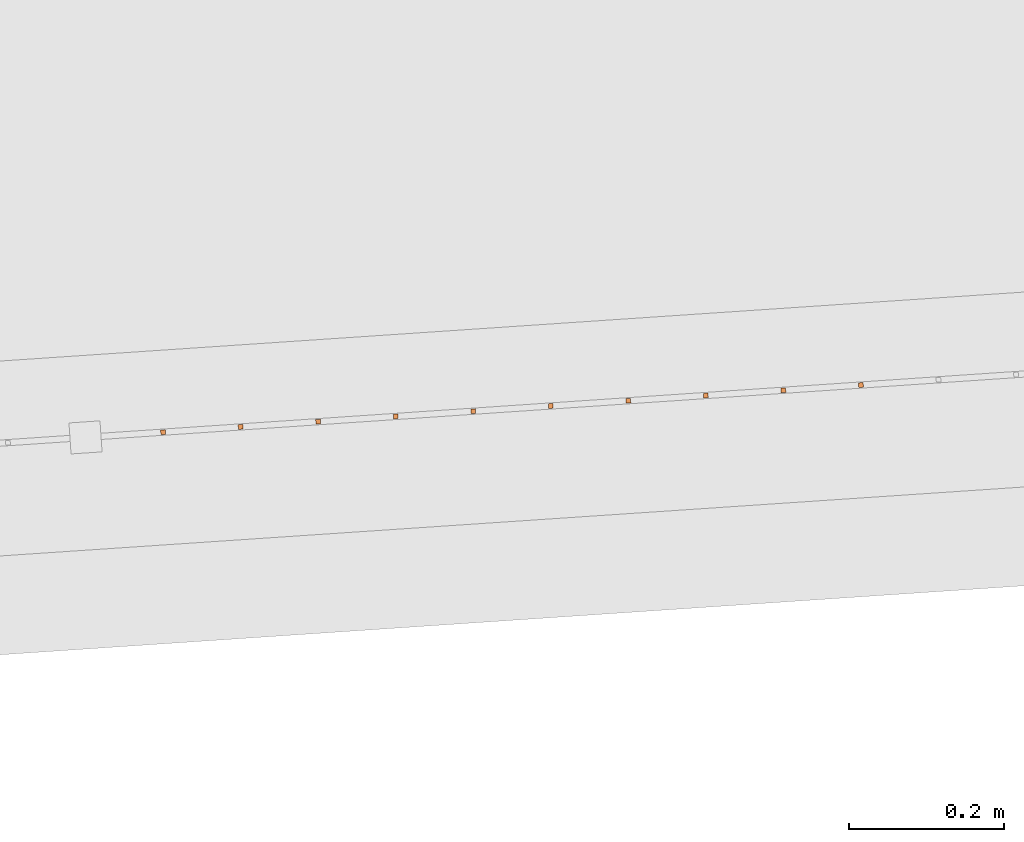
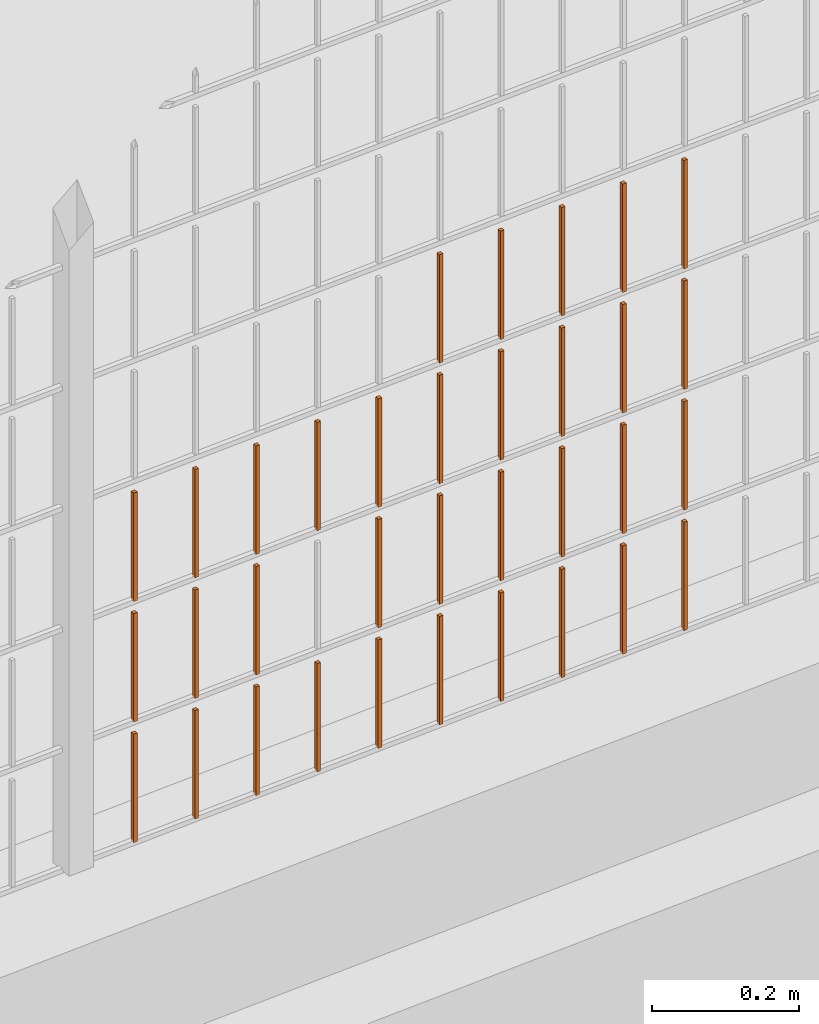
# One storey, part 337 of 1809: 34 proxies, 1 element without a shape of its own.
"""IFC2X3 building model written with IfcOpenShell, lengths in millimetres."""

from ifc_helpers import new_model, entity, si_unit, converted_unit, derived_unit, money_unit, direction, frame, origin_with_axes, place, context, subcontext, project, spatial, faceted_brep, source, transform, mapped, material, type_object, element, aggregate, save


model = new_model("IFC2X3")

# Units and contexts
model_context = context("Model", 3, precision=0.01, world=origin_with_axes(), true_north=direction((0.0, 1.0)))
body_context = subcontext(model_context, "Body", "Model", "MODEL_VIEW")
ifc_project = project(units=[si_unit("LENGTHUNIT", "METRE", prefix="MILLI"), si_unit("AREAUNIT", "SQUARE_METRE"), si_unit("VOLUMEUNIT", "CUBIC_METRE"), converted_unit("PLANEANGLEUNIT", "DEGREE", entity("IfcPlaneAngleMeasure", 0.0174532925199), si_unit("PLANEANGLEUNIT", "RADIAN"), dimensions=[0, 0, 0, 0, 0, 0, 0]), si_unit("SOLIDANGLEUNIT", "STERADIAN"), money_unit("EUR"), converted_unit("TIMEUNIT", "Year", entity("IfcTimeMeasure", 31556926.0), si_unit("TIMEUNIT", "SECOND"), dimensions=[0, 0, 1, 0, 0, 0, 0]), si_unit("MASSUNIT", "GRAM", prefix="KILO"), si_unit("THERMODYNAMICTEMPERATUREUNIT", "DEGREE_CELSIUS"), si_unit("LUMINOUSINTENSITYUNIT", "LUMEN"), si_unit("ENERGYUNIT", "JOULE", prefix="MEGA"), derived_unit("THERMALCONDUCTANCEUNIT", [(si_unit("POWERUNIT", "WATT"), 1), (si_unit("LENGTHUNIT", "METRE"), -1), (si_unit("THERMODYNAMICTEMPERATUREUNIT", "KELVIN"), -1)]), derived_unit("SPECIFICHEATCAPACITYUNIT", [(si_unit("ENERGYUNIT", "JOULE"), 1), (si_unit("MASSUNIT", "GRAM", prefix="KILO"), -1), (si_unit("THERMODYNAMICTEMPERATUREUNIT", "KELVIN"), -1)]), derived_unit("MASSDENSITYUNIT", [(si_unit("MASSUNIT", "GRAM", prefix="KILO"), 1), (si_unit("VOLUMEUNIT", "CUBIC_METRE"), -1)])], contexts=[model_context])

# Site, building, storey
site_placement = place(None, origin_with_axes())
site = spatial("IfcSite", under=ifc_project, at=site_placement, Name="Politse- ja Piirivalveameti ning Päästeameti ühishoone", CompositionType="ELEMENT")
building_placement = place(site_placement, origin_with_axes())
building = spatial("IfcBuilding", under=site, at=building_placement, Name="Politse- ja Piirivalveameti ning Päästeameti ühishoone", CompositionType="ELEMENT")
storey_placement = place(building_placement, origin_with_axes())
storey = spatial("IfcBuildingStorey", under=building, at=storey_placement, Name="Esimene korrus", CompositionType="ELEMENT", Elevation=0.0)

# Proxies
building_element_proxy_type_1 = type_object("IfcBuildingElementProxyType", Name="Railing Type", PredefinedType="NOTDEFINED")
proxy_1_placement = place(storey_placement, frame((89252.001212, -29183.4766571, 203.661247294), z_axis=(0.0, 0.0, 1.0), x_axis=(1.0, 0.0, 0.0)))
proxy_1 = element("IfcBuildingElementProxy", 1, at=proxy_1_placement, inside=storey, type_object=building_element_proxy_type_1, Name="PIIRDEAED")
ifc_material = material(Name="ET-03_Raud")
building_element_proxy_type_2 = type_object("IfcBuildingElementProxyType", Name="IfcBuildingElementProxy", PredefinedType="NOTDEFINED")
shared_shape_1 = source(origin_with_axes(), body_context, "Body", "Brep", [
    faceted_brep([(3.0, 3.0, -0.000752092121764), (-3.0, 3.0, -0.000752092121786), (-3.0, 3.0, 179.99926046), (3.0, 3.0, 179.99926046), (3.0, -3.0, 0.000752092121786), (-3.0, -3.0, 0.000752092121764), (-3.0, -3.0, 180.000764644), (3.0, -3.0, 180.000764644)], [[[0, 1, 2, 3]], [[0, 4, 5, 1]], [[1, 5, 6, 2]], [[3, 2, 6, 7]], [[4, 0, 3, 7]], [[5, 4, 7, 6]]]),
])
proxy_2_placement = place(proxy_1_placement, frame((-31255.4676915, -19408.9636503, 19.3808671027), z_axis=(0.0, 0.0, 1.0), x_axis=(1.0, 0.0, 0.0)))
proxy_2 = element("IfcBuildingElementProxy", 2, at=proxy_2_placement, type_object=building_element_proxy_type_2, material=ifc_material, Name="BALUSTER - 001", context=body_context, shape_type="MappedRepresentation", body=[
    mapped(shared_shape_1, transform((0.0, 0.0, 0.0), x_axis=(-0.0673926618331, 0.997726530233, 0.0), y_axis=(-0.997726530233, -0.0673926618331, 0.0), z_axis=(0.0, 0.0, 1.0))),
])
shared_shape_2 = source(origin_with_axes(), body_context, "Body", "Brep", [
    faceted_brep([(3.0, 3.0, -0.000752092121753), (-3.0, 3.0, -0.000752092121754), (-3.0, 3.0, 179.99926046), (3.0, 3.0, 179.99926046), (3.0, -3.0, 0.000752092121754), (-3.0, -3.0, 0.000752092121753), (-3.0, -3.0, 180.000764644), (3.0, -3.0, 180.000764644)], [[[0, 1, 2, 3]], [[0, 4, 5, 1]], [[1, 5, 6, 2]], [[3, 2, 6, 7]], [[4, 0, 3, 7]], [[5, 4, 7, 6]]]),
])
proxy_3_placement = place(proxy_1_placement, frame((-31654.5583036, -19435.920715, 419.280588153), z_axis=(0.0, 0.0, 1.0), x_axis=(1.0, 0.0, 0.0)))
proxy_3 = element("IfcBuildingElementProxy", 3, at=proxy_3_placement, type_object=building_element_proxy_type_2, material=ifc_material, Name="BALUSTER - 001", context=body_context, shape_type="MappedRepresentation", body=[
    mapped(shared_shape_2, transform((0.0, 0.0, 0.0), x_axis=(-0.0673926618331, 0.997726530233, 0.0), y_axis=(-0.997726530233, -0.0673926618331, 0.0), z_axis=(0.0, 0.0, 1.0))),
])
shared_shape_3 = source(origin_with_axes(), body_context, "Body", "Brep", [
    faceted_brep([(3.0, 3.0, -0.000752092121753), (-3.0, 3.0, -0.000752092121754), (-3.0, 3.0, 179.99926046), (3.0, 3.0, 179.99926046), (3.0, -3.0, 0.000752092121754), (-3.0, -3.0, 0.000752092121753), (-3.0, -3.0, 180.000764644), (3.0, -3.0, 180.000764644)], [[[0, 1, 2, 3]], [[0, 4, 5, 1]], [[1, 5, 6, 2]], [[3, 2, 6, 7]], [[4, 0, 3, 7]], [[5, 4, 7, 6]]]),
])
proxy_4_placement = place(proxy_1_placement, frame((-31554.7856505, -19429.1814488, 219.30565789), z_axis=(0.0, 0.0, 1.0), x_axis=(1.0, 0.0, 0.0)))
proxy_4 = element("IfcBuildingElementProxy", 4, at=proxy_4_placement, type_object=building_element_proxy_type_2, material=ifc_material, Name="BALUSTER - 001", context=body_context, shape_type="MappedRepresentation", body=[
    mapped(shared_shape_3, transform((0.0, 0.0, 0.0), x_axis=(-0.0673926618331, 0.997726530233, 0.0), y_axis=(-0.997726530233, -0.0673926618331, 0.0), z_axis=(0.0, 0.0, 1.0))),
])
proxy_5_placement = place(proxy_1_placement, frame((-31554.7856505, -19429.1814488, 419.30565789), z_axis=(0.0, 0.0, 1.0), x_axis=(1.0, 0.0, 0.0)))
proxy_5 = element("IfcBuildingElementProxy", 5, at=proxy_5_placement, type_object=building_element_proxy_type_2, material=ifc_material, Name="BALUSTER - 001", context=body_context, shape_type="MappedRepresentation", body=[
    mapped(shared_shape_3, transform((0.0, 0.0, 0.0), x_axis=(-0.0673926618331, 0.997726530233, 0.0), y_axis=(-0.997726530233, -0.0673926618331, 0.0), z_axis=(0.0, 0.0, 1.0))),
])
shared_shape_4 = source(origin_with_axes(), body_context, "Body", "Brep", [
    faceted_brep([(3.0, 3.0, -0.000752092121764), (-3.0, 3.0, -0.000752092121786), (-3.0, 3.0, 179.99926046), (3.0, 3.0, 179.99926046), (3.0, -3.0, 0.000752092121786), (-3.0, -3.0, 0.000752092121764), (-3.0, -3.0, 180.000764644), (3.0, -3.0, 180.000764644)], [[[0, 1, 2, 3]], [[0, 4, 5, 1]], [[1, 5, 6, 2]], [[3, 2, 6, 7]], [[4, 0, 3, 7]], [[5, 4, 7, 6]]]),
])
proxy_6_placement = place(proxy_1_placement, frame((-31255.4676915, -19408.9636503, 219.380867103), z_axis=(0.0, 0.0, 1.0), x_axis=(1.0, 0.0, 0.0)))
proxy_6 = element("IfcBuildingElementProxy", 6, at=proxy_6_placement, type_object=building_element_proxy_type_2, material=ifc_material, Name="BALUSTER - 001", context=body_context, shape_type="MappedRepresentation", body=[
    mapped(shared_shape_4, transform((0.0, 0.0, 0.0), x_axis=(-0.0673926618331, 0.997726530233, 0.0), y_axis=(-0.997726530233, -0.0673926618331, 0.0), z_axis=(0.0, 0.0, 1.0))),
])
shared_shape_5 = source(origin_with_axes(), body_context, "Body", "Brep", [
    faceted_brep([(3.0, 3.0, -0.000752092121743), (-3.0, 3.0, -0.000752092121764), (-3.0, 3.0, 179.99926046), (3.0, 3.0, 179.99926046), (3.0, -3.0, 0.000752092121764), (-3.0, -3.0, 0.000752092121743), (-3.0, -3.0, 180.000764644), (3.0, -3.0, 180.000764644)], [[[0, 1, 2, 3]], [[0, 4, 5, 1]], [[1, 5, 6, 2]], [[3, 2, 6, 7]], [[4, 0, 3, 7]], [[5, 4, 7, 6]]]),
])
proxy_7_placement = place(proxy_1_placement, frame((-31754.3309566, -19442.6599812, 219.255518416), z_axis=(0.0, 0.0, 1.0), x_axis=(1.0, 0.0, 0.0)))
proxy_7 = element("IfcBuildingElementProxy", 7, at=proxy_7_placement, type_object=building_element_proxy_type_2, material=ifc_material, Name="BALUSTER - 001", context=body_context, shape_type="MappedRepresentation", body=[
    mapped(shared_shape_5, transform((0.0, 0.0, 0.0), x_axis=(-0.0673926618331, 0.997726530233, 0.0), y_axis=(-0.997726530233, -0.0673926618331, 0.0), z_axis=(0.0, 0.0, 1.0))),
])
proxy_8_placement = place(proxy_1_placement, frame((-31754.3309566, -19442.6599812, 419.255518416), z_axis=(0.0, 0.0, 1.0), x_axis=(1.0, 0.0, 0.0)))
proxy_8 = element("IfcBuildingElementProxy", 8, at=proxy_8_placement, type_object=building_element_proxy_type_2, material=ifc_material, Name="BALUSTER - 001", context=body_context, shape_type="MappedRepresentation", body=[
    mapped(shared_shape_5, transform((0.0, 0.0, 0.0), x_axis=(-0.0673926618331, 0.997726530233, 0.0), y_axis=(-0.997726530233, -0.0673926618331, 0.0), z_axis=(0.0, 0.0, 1.0))),
])
shared_shape_6 = source(origin_with_axes(), body_context, "Body", "Brep", [
    faceted_brep([(3.0, 3.0, -0.000752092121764), (-3.0, 3.0, -0.000752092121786), (-3.0, 3.0, 179.99926046), (3.0, 3.0, 179.99926046), (3.0, -3.0, 0.000752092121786), (-3.0, -3.0, 0.000752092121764), (-3.0, -3.0, 180.000764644), (3.0, -3.0, 180.000764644)], [[[0, 1, 2, 3]], [[0, 4, 5, 1]], [[1, 5, 6, 2]], [[3, 2, 6, 7]], [[4, 0, 3, 7]], [[5, 4, 7, 6]]]),
])
proxy_9_placement = place(proxy_1_placement, frame((-31255.4676915, -19408.9636503, 419.380867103), z_axis=(0.0, 0.0, 1.0), x_axis=(1.0, 0.0, 0.0)))
proxy_9 = element("IfcBuildingElementProxy", 9, at=proxy_9_placement, type_object=building_element_proxy_type_2, material=ifc_material, Name="BALUSTER - 001", context=body_context, shape_type="MappedRepresentation", body=[
    mapped(shared_shape_6, transform((0.0, 0.0, 0.0), x_axis=(-0.0673926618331, 0.997726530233, 0.0), y_axis=(-0.997726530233, -0.0673926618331, 0.0), z_axis=(0.0, 0.0, 1.0))),
])
shared_shape_7 = source(origin_with_axes(), body_context, "Body", "Brep", [
    faceted_brep([(3.0, 3.0, -0.000752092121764), (-3.0, 3.0, -0.000752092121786), (-3.0, 3.0, 179.99926046), (3.0, 3.0, 179.99926046), (3.0, -3.0, 0.000752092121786), (-3.0, -3.0, 0.000752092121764), (-3.0, -3.0, 180.000764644), (3.0, -3.0, 180.000764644)], [[[0, 1, 2, 3]], [[0, 4, 5, 1]], [[1, 5, 6, 2]], [[3, 2, 6, 7]], [[4, 0, 3, 7]], [[5, 4, 7, 6]]]),
])
proxy_10_placement = place(proxy_1_placement, frame((-31255.4676915, -19408.9636503, 619.380867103), z_axis=(0.0, 0.0, 1.0), x_axis=(1.0, 0.0, 0.0)))
proxy_10 = element("IfcBuildingElementProxy", 10, at=proxy_10_placement, type_object=building_element_proxy_type_2, material=ifc_material, Name="BALUSTER - 001", context=body_context, shape_type="MappedRepresentation", body=[
    mapped(shared_shape_7, transform((0.0, 0.0, 0.0), x_axis=(-0.0673926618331, 0.997726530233, 0.0), y_axis=(-0.997726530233, -0.0673926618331, 0.0), z_axis=(0.0, 0.0, 1.0))),
])
shared_shape_8 = source(origin_with_axes(), body_context, "Body", "Brep", [
    faceted_brep([(3.0, 3.0, -0.000752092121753), (-3.0, 3.0, -0.000752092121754), (-3.0, 3.0, 179.99926046), (3.0, 3.0, 179.99926046), (3.0, -3.0, 0.000752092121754), (-3.0, -3.0, 0.000752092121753), (-3.0, -3.0, 180.000764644), (3.0, -3.0, 180.000764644)], [[[0, 1, 2, 3]], [[0, 4, 5, 1]], [[1, 5, 6, 2]], [[3, 2, 6, 7]], [[4, 0, 3, 7]], [[5, 4, 7, 6]]]),
])
proxy_11_placement = place(proxy_1_placement, frame((-31554.7856505, -19429.1814488, 619.30565789), z_axis=(0.0, 0.0, 1.0), x_axis=(1.0, 0.0, 0.0)))
proxy_11 = element("IfcBuildingElementProxy", 11, at=proxy_11_placement, type_object=building_element_proxy_type_2, material=ifc_material, Name="BALUSTER - 001", context=body_context, shape_type="MappedRepresentation", body=[
    mapped(shared_shape_8, transform((0.0, 0.0, 0.0), x_axis=(-0.0673926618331, 0.997726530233, 0.0), y_axis=(-0.997726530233, -0.0673926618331, 0.0), z_axis=(0.0, 0.0, 1.0))),
])
shared_shape_9 = source(origin_with_axes(), body_context, "Body", "Brep", [
    faceted_brep([(3.0, 3.0, -0.000752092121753), (-3.0, 3.0, -0.000752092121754), (-3.0, 3.0, 179.99926046), (3.0, 3.0, 179.99926046), (3.0, -3.0, 0.000752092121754), (-3.0, -3.0, 0.000752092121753), (-3.0, -3.0, 180.000764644), (3.0, -3.0, 180.000764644)], [[[0, 1, 2, 3]], [[0, 4, 5, 1]], [[1, 5, 6, 2]], [[3, 2, 6, 7]], [[4, 0, 3, 7]], [[5, 4, 7, 6]]]),
])
proxy_12_placement = place(proxy_1_placement, frame((-31654.5583036, -19435.920715, 619.280588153), z_axis=(0.0, 0.0, 1.0), x_axis=(1.0, 0.0, 0.0)))
proxy_12 = element("IfcBuildingElementProxy", 12, at=proxy_12_placement, type_object=building_element_proxy_type_2, material=ifc_material, Name="BALUSTER - 001", context=body_context, shape_type="MappedRepresentation", body=[
    mapped(shared_shape_9, transform((0.0, 0.0, 0.0), x_axis=(-0.0673926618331, 0.997726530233, 0.0), y_axis=(-0.997726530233, -0.0673926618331, 0.0), z_axis=(0.0, 0.0, 1.0))),
])
shared_shape_10 = source(origin_with_axes(), body_context, "Body", "Brep", [
    faceted_brep([(3.0, 3.0, -0.000752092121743), (-3.0, 3.0, -0.000752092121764), (-3.0, 3.0, 179.99926046), (3.0, 3.0, 179.99926046), (3.0, -3.0, 0.000752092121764), (-3.0, -3.0, 0.000752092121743), (-3.0, -3.0, 180.000764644), (3.0, -3.0, 180.000764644)], [[[0, 1, 2, 3]], [[0, 4, 5, 1]], [[1, 5, 6, 2]], [[3, 2, 6, 7]], [[4, 0, 3, 7]], [[5, 4, 7, 6]]]),
])
proxy_13_placement = place(proxy_1_placement, frame((-31754.3309566, -19442.6599812, 19.2555184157), z_axis=(0.0, 0.0, 1.0), x_axis=(1.0, 0.0, 0.0)))
proxy_13 = element("IfcBuildingElementProxy", 13, at=proxy_13_placement, type_object=building_element_proxy_type_2, material=ifc_material, Name="BALUSTER - 001", context=body_context, shape_type="MappedRepresentation", body=[
    mapped(shared_shape_10, transform((0.0, 0.0, 0.0), x_axis=(-0.0673926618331, 0.997726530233, 0.0), y_axis=(-0.997726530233, -0.0673926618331, 0.0), z_axis=(0.0, 0.0, 1.0))),
])
shared_shape_11 = source(origin_with_axes(), body_context, "Body", "Brep", [
    faceted_brep([(3.0, 3.0, -0.000752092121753), (-3.0, 3.0, -0.000752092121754), (-3.0, 3.0, 179.99926046), (3.0, 3.0, 179.99926046), (3.0, -3.0, 0.000752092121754), (-3.0, -3.0, 0.000752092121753), (-3.0, -3.0, 180.000764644), (3.0, -3.0, 180.000764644)], [[[0, 1, 2, 3]], [[0, 4, 5, 1]], [[1, 5, 6, 2]], [[3, 2, 6, 7]], [[4, 0, 3, 7]], [[5, 4, 7, 6]]]),
])
proxy_14_placement = place(proxy_1_placement, frame((-31554.7856505, -19429.1814488, 19.3056578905), z_axis=(0.0, 0.0, 1.0), x_axis=(1.0, 0.0, 0.0)))
proxy_14 = element("IfcBuildingElementProxy", 14, at=proxy_14_placement, type_object=building_element_proxy_type_2, material=ifc_material, Name="BALUSTER - 001", context=body_context, shape_type="MappedRepresentation", body=[
    mapped(shared_shape_11, transform((0.0, 0.0, 0.0), x_axis=(-0.0673926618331, 0.997726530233, 0.0), y_axis=(-0.997726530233, -0.0673926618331, 0.0), z_axis=(0.0, 0.0, 1.0))),
])
shared_shape_12 = source(origin_with_axes(), body_context, "Body", "Brep", [
    faceted_brep([(3.0, 3.0, -0.000752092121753), (-3.0, 3.0, -0.000752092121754), (-3.0, 3.0, 179.99926046), (3.0, 3.0, 179.99926046), (3.0, -3.0, 0.000752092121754), (-3.0, -3.0, 0.000752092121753), (-3.0, -3.0, 180.000764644), (3.0, -3.0, 180.000764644)], [[[0, 1, 2, 3]], [[0, 4, 5, 1]], [[1, 5, 6, 2]], [[3, 2, 6, 7]], [[4, 0, 3, 7]], [[5, 4, 7, 6]]]),
])
proxy_15_placement = place(proxy_1_placement, frame((-31654.5583036, -19435.920715, 219.280588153), z_axis=(0.0, 0.0, 1.0), x_axis=(1.0, 0.0, 0.0)))
proxy_15 = element("IfcBuildingElementProxy", 15, at=proxy_15_placement, type_object=building_element_proxy_type_2, material=ifc_material, Name="BALUSTER - 001", context=body_context, shape_type="MappedRepresentation", body=[
    mapped(shared_shape_12, transform((0.0, 0.0, 0.0), x_axis=(-0.0673926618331, 0.997726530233, 0.0), y_axis=(-0.997726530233, -0.0673926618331, 0.0), z_axis=(0.0, 0.0, 1.0))),
])
shared_shape_13 = source(origin_with_axes(), body_context, "Body", "Brep", [
    faceted_brep([(3.0, 3.0, -0.000752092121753), (-3.0, 3.0, -0.000752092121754), (-3.0, 3.0, 179.99926046), (3.0, 3.0, 179.99926046), (3.0, -3.0, 0.000752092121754), (-3.0, -3.0, 0.000752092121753), (-3.0, -3.0, 180.000764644), (3.0, -3.0, 180.000764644)], [[[0, 1, 2, 3]], [[0, 4, 5, 1]], [[1, 5, 6, 2]], [[3, 2, 6, 7]], [[4, 0, 3, 7]], [[5, 4, 7, 6]]]),
])
proxy_16_placement = place(proxy_1_placement, frame((-31654.5583036, -19435.920715, 19.2805881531), z_axis=(0.0, 0.0, 1.0), x_axis=(1.0, 0.0, 0.0)))
proxy_16 = element("IfcBuildingElementProxy", 16, at=proxy_16_placement, type_object=building_element_proxy_type_2, material=ifc_material, Name="BALUSTER - 001", context=body_context, shape_type="MappedRepresentation", body=[
    mapped(shared_shape_13, transform((0.0, 0.0, 0.0), x_axis=(-0.0673926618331, 0.997726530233, 0.0), y_axis=(-0.997726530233, -0.0673926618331, 0.0), z_axis=(0.0, 0.0, 1.0))),
])
shared_shape_14 = source(origin_with_axes(), body_context, "Body", "Brep", [
    faceted_brep([(3.0, 3.0, -0.000752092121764), (-3.0, 3.0, -0.000752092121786), (-3.0, 3.0, 179.99926046), (3.0, 3.0, 179.99926046), (3.0, -3.0, 0.000752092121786), (-3.0, -3.0, 0.000752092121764), (-3.0, -3.0, 180.000764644), (3.0, -3.0, 180.000764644)], [[[0, 1, 2, 3]], [[0, 4, 5, 1]], [[1, 5, 6, 2]], [[3, 2, 6, 7]], [[4, 0, 3, 7]], [[5, 4, 7, 6]]]),
])
proxy_17_placement = place(proxy_1_placement, frame((-31953.8762626, -19456.1385136, 19.2053789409), z_axis=(0.0, 0.0, 1.0), x_axis=(1.0, 0.0, 0.0)))
proxy_17 = element("IfcBuildingElementProxy", 17, at=proxy_17_placement, type_object=building_element_proxy_type_2, material=ifc_material, Name="BALUSTER - 001", context=body_context, shape_type="MappedRepresentation", body=[
    mapped(shared_shape_14, transform((0.0, 0.0, 0.0), x_axis=(-0.0673926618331, 0.997726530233, 0.0), y_axis=(-0.997726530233, -0.0673926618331, 0.0), z_axis=(0.0, 0.0, 1.0))),
])
shared_shape_15 = source(origin_with_axes(), body_context, "Body", "Brep", [
    faceted_brep([(3.0, 3.0, -0.000752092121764), (-3.0, 3.0, -0.000752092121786), (-3.0, 3.0, 179.99926046), (3.0, 3.0, 179.99926046), (3.0, -3.0, 0.000752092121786), (-3.0, -3.0, 0.000752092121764), (-3.0, -3.0, 180.000764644), (3.0, -3.0, 180.000764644)], [[[0, 1, 2, 3]], [[0, 4, 5, 1]], [[1, 5, 6, 2]], [[3, 2, 6, 7]], [[4, 0, 3, 7]], [[5, 4, 7, 6]]]),
])
proxy_18_placement = place(proxy_1_placement, frame((-32053.6489157, -19462.8777798, 219.180309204), z_axis=(0.0, 0.0, 1.0), x_axis=(1.0, 0.0, 0.0)))
proxy_18 = element("IfcBuildingElementProxy", 18, at=proxy_18_placement, type_object=building_element_proxy_type_2, material=ifc_material, Name="BALUSTER - 001", context=body_context, shape_type="MappedRepresentation", body=[
    mapped(shared_shape_15, transform((0.0, 0.0, 0.0), x_axis=(-0.0673926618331, 0.997726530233, 0.0), y_axis=(-0.997726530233, -0.0673926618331, 0.0), z_axis=(0.0, 0.0, 1.0))),
])
proxy_19_placement = place(proxy_1_placement, frame((-32153.4215687, -19469.6170459, 219.155239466), z_axis=(0.0, 0.0, 1.0), x_axis=(1.0, 0.0, 0.0)))
proxy_19 = element("IfcBuildingElementProxy", 19, at=proxy_19_placement, type_object=building_element_proxy_type_2, material=ifc_material, Name="BALUSTER - 001", context=body_context, shape_type="MappedRepresentation", body=[
    mapped(shared_shape_15, transform((0.0, 0.0, 0.0), x_axis=(-0.0673926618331, 0.997726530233, 0.0), y_axis=(-0.997726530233, -0.0673926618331, 0.0), z_axis=(0.0, 0.0, 1.0))),
])
proxy_20_placement = place(proxy_1_placement, frame((-31953.8762626, -19456.1385136, 419.205378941), z_axis=(0.0, 0.0, 1.0), x_axis=(1.0, 0.0, 0.0)))
proxy_20 = element("IfcBuildingElementProxy", 20, at=proxy_20_placement, type_object=building_element_proxy_type_2, material=ifc_material, Name="BALUSTER - 001", context=body_context, shape_type="MappedRepresentation", body=[
    mapped(shared_shape_15, transform((0.0, 0.0, 0.0), x_axis=(-0.0673926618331, 0.997726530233, 0.0), y_axis=(-0.997726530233, -0.0673926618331, 0.0), z_axis=(0.0, 0.0, 1.0))),
])
proxy_21_placement = place(proxy_1_placement, frame((-32053.6489157, -19462.8777798, 419.180309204), z_axis=(0.0, 0.0, 1.0), x_axis=(1.0, 0.0, 0.0)))
proxy_21 = element("IfcBuildingElementProxy", 21, at=proxy_21_placement, type_object=building_element_proxy_type_2, material=ifc_material, Name="BALUSTER - 001", context=body_context, shape_type="MappedRepresentation", body=[
    mapped(shared_shape_15, transform((0.0, 0.0, 0.0), x_axis=(-0.0673926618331, 0.997726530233, 0.0), y_axis=(-0.997726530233, -0.0673926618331, 0.0), z_axis=(0.0, 0.0, 1.0))),
])
shared_shape_16 = source(origin_with_axes(), body_context, "Body", "Brep", [
    faceted_brep([(3.0, 3.0, -0.000752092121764), (-3.0, 3.0, -0.000752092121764), (-3.0, 3.0, 179.99926046), (3.0, 3.0, 179.99926046), (3.0, -3.0, 0.000752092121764), (-3.0, -3.0, 0.000752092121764), (-3.0, -3.0, 180.000764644), (3.0, -3.0, 180.000764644)], [[[0, 1, 2, 3]], [[0, 4, 5, 1]], [[1, 5, 6, 2]], [[3, 2, 6, 7]], [[4, 0, 3, 7]], [[5, 4, 7, 6]]]),
])
proxy_22_placement = place(proxy_1_placement, frame((-31355.2403445, -19415.7029165, 19.3557973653), z_axis=(0.0, 0.0, 1.0), x_axis=(1.0, 0.0, 0.0)))
proxy_22 = element("IfcBuildingElementProxy", 22, at=proxy_22_placement, type_object=building_element_proxy_type_2, material=ifc_material, Name="BALUSTER - 001", context=body_context, shape_type="MappedRepresentation", body=[
    mapped(shared_shape_16, transform((0.0, 0.0, 0.0), x_axis=(-0.0673926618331, 0.997726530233, 0.0), y_axis=(-0.997726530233, -0.0673926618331, 0.0), z_axis=(0.0, 0.0, 1.0))),
])
proxy_23_placement = place(proxy_1_placement, frame((-31355.2403445, -19415.7029165, 219.355797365), z_axis=(0.0, 0.0, 1.0), x_axis=(1.0, 0.0, 0.0)))
proxy_23 = element("IfcBuildingElementProxy", 23, at=proxy_23_placement, type_object=building_element_proxy_type_2, material=ifc_material, Name="BALUSTER - 001", context=body_context, shape_type="MappedRepresentation", body=[
    mapped(shared_shape_16, transform((0.0, 0.0, 0.0), x_axis=(-0.0673926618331, 0.997726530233, 0.0), y_axis=(-0.997726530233, -0.0673926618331, 0.0), z_axis=(0.0, 0.0, 1.0))),
])
shared_shape_17 = source(origin_with_axes(), body_context, "Body", "Brep", [
    faceted_brep([(3.0, 3.0, -0.000752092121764), (-3.0, 3.0, -0.000752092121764), (-3.0, 3.0, 179.99926046), (3.0, 3.0, 179.99926046), (3.0, -3.0, 0.000752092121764), (-3.0, -3.0, 0.000752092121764), (-3.0, -3.0, 180.000764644), (3.0, -3.0, 180.000764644)], [[[0, 1, 2, 3]], [[0, 4, 5, 1]], [[1, 5, 6, 2]], [[3, 2, 6, 7]], [[4, 0, 3, 7]], [[5, 4, 7, 6]]]),
])
proxy_24_placement = place(proxy_1_placement, frame((-31455.0129975, -19422.4421827, 219.330727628), z_axis=(0.0, 0.0, 1.0), x_axis=(1.0, 0.0, 0.0)))
proxy_24 = element("IfcBuildingElementProxy", 24, at=proxy_24_placement, type_object=building_element_proxy_type_2, material=ifc_material, Name="BALUSTER - 001", context=body_context, shape_type="MappedRepresentation", body=[
    mapped(shared_shape_17, transform((0.0, 0.0, 0.0), x_axis=(-0.0673926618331, 0.997726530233, 0.0), y_axis=(-0.997726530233, -0.0673926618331, 0.0), z_axis=(0.0, 0.0, 1.0))),
])
proxy_25_placement = place(proxy_1_placement, frame((-31355.2403445, -19415.7029165, 419.355797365), z_axis=(0.0, 0.0, 1.0), x_axis=(1.0, 0.0, 0.0)))
proxy_25 = element("IfcBuildingElementProxy", 25, at=proxy_25_placement, type_object=building_element_proxy_type_2, material=ifc_material, Name="BALUSTER - 001", context=body_context, shape_type="MappedRepresentation", body=[
    mapped(shared_shape_17, transform((0.0, 0.0, 0.0), x_axis=(-0.0673926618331, 0.997726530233, 0.0), y_axis=(-0.997726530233, -0.0673926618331, 0.0), z_axis=(0.0, 0.0, 1.0))),
])
proxy_26_placement = place(proxy_1_placement, frame((-31455.0129975, -19422.4421827, 619.330727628), z_axis=(0.0, 0.0, 1.0), x_axis=(1.0, 0.0, 0.0)))
proxy_26 = element("IfcBuildingElementProxy", 26, at=proxy_26_placement, type_object=building_element_proxy_type_2, material=ifc_material, Name="BALUSTER - 001", context=body_context, shape_type="MappedRepresentation", body=[
    mapped(shared_shape_17, transform((0.0, 0.0, 0.0), x_axis=(-0.0673926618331, 0.997726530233, 0.0), y_axis=(-0.997726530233, -0.0673926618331, 0.0), z_axis=(0.0, 0.0, 1.0))),
])
shared_shape_18 = source(origin_with_axes(), body_context, "Body", "Brep", [
    faceted_brep([(3.0, 3.0, -0.000752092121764), (-3.0, 3.0, -0.000752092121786), (-3.0, 3.0, 179.99926046), (3.0, 3.0, 179.99926046), (3.0, -3.0, 0.000752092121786), (-3.0, -3.0, 0.000752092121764), (-3.0, -3.0, 180.000764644), (3.0, -3.0, 180.000764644)], [[[0, 1, 2, 3]], [[0, 4, 5, 1]], [[1, 5, 6, 2]], [[3, 2, 6, 7]], [[4, 0, 3, 7]], [[5, 4, 7, 6]]]),
])
proxy_27_placement = place(proxy_1_placement, frame((-32153.4215687, -19469.6170459, 419.155239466), z_axis=(0.0, 0.0, 1.0), x_axis=(1.0, 0.0, 0.0)))
proxy_27 = element("IfcBuildingElementProxy", 27, at=proxy_27_placement, type_object=building_element_proxy_type_2, material=ifc_material, Name="BALUSTER - 001", context=body_context, shape_type="MappedRepresentation", body=[
    mapped(shared_shape_18, transform((0.0, 0.0, 0.0), x_axis=(-0.0673926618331, 0.997726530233, 0.0), y_axis=(-0.997726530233, -0.0673926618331, 0.0), z_axis=(0.0, 0.0, 1.0))),
])
shared_shape_19 = source(origin_with_axes(), body_context, "Body", "Brep", [
    faceted_brep([(3.0, 3.0, -0.000752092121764), (-3.0, 3.0, -0.000752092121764), (-3.0, 3.0, 179.99926046), (3.0, 3.0, 179.99926046), (3.0, -3.0, 0.000752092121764), (-3.0, -3.0, 0.000752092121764), (-3.0, -3.0, 180.000764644), (3.0, -3.0, 180.000764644)], [[[0, 1, 2, 3]], [[0, 4, 5, 1]], [[1, 5, 6, 2]], [[3, 2, 6, 7]], [[4, 0, 3, 7]], [[5, 4, 7, 6]]]),
])
proxy_28_placement = place(proxy_1_placement, frame((-31455.0129975, -19422.4421827, 419.330727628), z_axis=(0.0, 0.0, 1.0), x_axis=(1.0, 0.0, 0.0)))
proxy_28 = element("IfcBuildingElementProxy", 28, at=proxy_28_placement, type_object=building_element_proxy_type_2, material=ifc_material, Name="BALUSTER - 001", context=body_context, shape_type="MappedRepresentation", body=[
    mapped(shared_shape_19, transform((0.0, 0.0, 0.0), x_axis=(-0.0673926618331, 0.997726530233, 0.0), y_axis=(-0.997726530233, -0.0673926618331, 0.0), z_axis=(0.0, 0.0, 1.0))),
])
shared_shape_20 = source(origin_with_axes(), body_context, "Body", "Brep", [
    faceted_brep([(3.0, 3.0, -0.000752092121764), (-3.0, 3.0, -0.000752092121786), (-3.0, 3.0, 179.99926046), (3.0, 3.0, 179.99926046), (3.0, -3.0, 0.000752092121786), (-3.0, -3.0, 0.000752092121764), (-3.0, -3.0, 180.000764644), (3.0, -3.0, 180.000764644)], [[[0, 1, 2, 3]], [[0, 4, 5, 1]], [[1, 5, 6, 2]], [[3, 2, 6, 7]], [[4, 0, 3, 7]], [[5, 4, 7, 6]]]),
])
proxy_29_placement = place(proxy_1_placement, frame((-32053.6489157, -19462.8777798, 19.1803092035), z_axis=(0.0, 0.0, 1.0), x_axis=(1.0, 0.0, 0.0)))
proxy_29 = element("IfcBuildingElementProxy", 29, at=proxy_29_placement, type_object=building_element_proxy_type_2, material=ifc_material, Name="BALUSTER - 001", context=body_context, shape_type="MappedRepresentation", body=[
    mapped(shared_shape_20, transform((0.0, 0.0, 0.0), x_axis=(-0.0673926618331, 0.997726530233, 0.0), y_axis=(-0.997726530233, -0.0673926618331, 0.0), z_axis=(0.0, 0.0, 1.0))),
])
shared_shape_21 = source(origin_with_axes(), body_context, "Body", "Brep", [
    faceted_brep([(3.0, 3.0, -0.000752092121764), (-3.0, 3.0, -0.000752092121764), (-3.0, 3.0, 179.99926046), (3.0, 3.0, 179.99926046), (3.0, -3.0, 0.000752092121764), (-3.0, -3.0, 0.000752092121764), (-3.0, -3.0, 180.000764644), (3.0, -3.0, 180.000764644)], [[[0, 1, 2, 3]], [[0, 4, 5, 1]], [[1, 5, 6, 2]], [[3, 2, 6, 7]], [[4, 0, 3, 7]], [[5, 4, 7, 6]]]),
])
proxy_30_placement = place(proxy_1_placement, frame((-31355.2403445, -19415.7029165, 619.355797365), z_axis=(0.0, 0.0, 1.0), x_axis=(1.0, 0.0, 0.0)))
proxy_30 = element("IfcBuildingElementProxy", 30, at=proxy_30_placement, type_object=building_element_proxy_type_2, material=ifc_material, Name="BALUSTER - 001", context=body_context, shape_type="MappedRepresentation", body=[
    mapped(shared_shape_21, transform((0.0, 0.0, 0.0), x_axis=(-0.0673926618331, 0.997726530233, 0.0), y_axis=(-0.997726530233, -0.0673926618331, 0.0), z_axis=(0.0, 0.0, 1.0))),
])
shared_shape_22 = source(origin_with_axes(), body_context, "Body", "Brep", [
    faceted_brep([(3.0, 3.0, -0.000752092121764), (-3.0, 3.0, -0.000752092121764), (-3.0, 3.0, 179.99926046), (3.0, 3.0, 179.99926046), (3.0, -3.0, 0.000752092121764), (-3.0, -3.0, 0.000752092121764), (-3.0, -3.0, 180.000764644), (3.0, -3.0, 180.000764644)], [[[0, 1, 2, 3]], [[0, 4, 5, 1]], [[1, 5, 6, 2]], [[3, 2, 6, 7]], [[4, 0, 3, 7]], [[5, 4, 7, 6]]]),
])
proxy_31_placement = place(proxy_1_placement, frame((-31854.1036096, -19449.3992474, 19.2304486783), z_axis=(0.0, 0.0, 1.0), x_axis=(1.0, 0.0, 0.0)))
proxy_31 = element("IfcBuildingElementProxy", 31, at=proxy_31_placement, type_object=building_element_proxy_type_2, material=ifc_material, Name="BALUSTER - 001", context=body_context, shape_type="MappedRepresentation", body=[
    mapped(shared_shape_22, transform((0.0, 0.0, 0.0), x_axis=(-0.0673926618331, 0.997726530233, 0.0), y_axis=(-0.997726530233, -0.0673926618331, 0.0), z_axis=(0.0, 0.0, 1.0))),
])
shared_shape_23 = source(origin_with_axes(), body_context, "Body", "Brep", [
    faceted_brep([(3.0, 3.0, -0.000752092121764), (-3.0, 3.0, -0.000752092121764), (-3.0, 3.0, 179.99926046), (3.0, 3.0, 179.99926046), (3.0, -3.0, 0.000752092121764), (-3.0, -3.0, 0.000752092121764), (-3.0, -3.0, 180.000764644), (3.0, -3.0, 180.000764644)], [[[0, 1, 2, 3]], [[0, 4, 5, 1]], [[1, 5, 6, 2]], [[3, 2, 6, 7]], [[4, 0, 3, 7]], [[5, 4, 7, 6]]]),
])
proxy_32_placement = place(proxy_1_placement, frame((-31455.0129975, -19422.4421827, 19.3307276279), z_axis=(0.0, 0.0, 1.0), x_axis=(1.0, 0.0, 0.0)))
proxy_32 = element("IfcBuildingElementProxy", 32, at=proxy_32_placement, type_object=building_element_proxy_type_2, material=ifc_material, Name="BALUSTER - 001", context=body_context, shape_type="MappedRepresentation", body=[
    mapped(shared_shape_23, transform((0.0, 0.0, 0.0), x_axis=(-0.0673926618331, 0.997726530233, 0.0), y_axis=(-0.997726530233, -0.0673926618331, 0.0), z_axis=(0.0, 0.0, 1.0))),
])
shared_shape_24 = source(origin_with_axes(), body_context, "Body", "Brep", [
    faceted_brep([(3.0, 3.0, -0.000752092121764), (-3.0, 3.0, -0.000752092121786), (-3.0, 3.0, 179.99926046), (3.0, 3.0, 179.99926046), (3.0, -3.0, 0.000752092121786), (-3.0, -3.0, 0.000752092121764), (-3.0, -3.0, 180.000764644), (3.0, -3.0, 180.000764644)], [[[0, 1, 2, 3]], [[0, 4, 5, 1]], [[1, 5, 6, 2]], [[3, 2, 6, 7]], [[4, 0, 3, 7]], [[5, 4, 7, 6]]]),
])
proxy_33_placement = place(proxy_1_placement, frame((-32153.4215687, -19469.6170459, 19.1552394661), z_axis=(0.0, 0.0, 1.0), x_axis=(1.0, 0.0, 0.0)))
proxy_33 = element("IfcBuildingElementProxy", 33, at=proxy_33_placement, type_object=building_element_proxy_type_2, material=ifc_material, Name="BALUSTER - 001", context=body_context, shape_type="MappedRepresentation", body=[
    mapped(shared_shape_24, transform((0.0, 0.0, 0.0), x_axis=(-0.0673926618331, 0.997726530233, 0.0), y_axis=(-0.997726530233, -0.0673926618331, 0.0), z_axis=(0.0, 0.0, 1.0))),
])
shared_shape_25 = source(origin_with_axes(), body_context, "Body", "Brep", [
    faceted_brep([(3.0, 3.0, -0.000752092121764), (-3.0, 3.0, -0.000752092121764), (-3.0, 3.0, 179.99926046), (3.0, 3.0, 179.99926046), (3.0, -3.0, 0.000752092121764), (-3.0, -3.0, 0.000752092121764), (-3.0, -3.0, 180.000764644), (3.0, -3.0, 180.000764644)], [[[0, 1, 2, 3]], [[0, 4, 5, 1]], [[1, 5, 6, 2]], [[3, 2, 6, 7]], [[4, 0, 3, 7]], [[5, 4, 7, 6]]]),
])
proxy_34_placement = place(proxy_1_placement, frame((-31854.1036096, -19449.3992474, 419.230448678), z_axis=(0.0, 0.0, 1.0), x_axis=(1.0, 0.0, 0.0)))
proxy_34 = element("IfcBuildingElementProxy", 34, at=proxy_34_placement, type_object=building_element_proxy_type_2, material=ifc_material, Name="BALUSTER - 001", context=body_context, shape_type="MappedRepresentation", body=[
    mapped(shared_shape_25, transform((0.0, 0.0, 0.0), x_axis=(-0.0673926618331, 0.997726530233, 0.0), y_axis=(-0.997726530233, -0.0673926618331, 0.0), z_axis=(0.0, 0.0, 1.0))),
])
shared_shape_26 = source(origin_with_axes(), body_context, "Body", "Brep", [
    faceted_brep([(3.0, 3.0, -0.000752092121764), (-3.0, 3.0, -0.000752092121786), (-3.0, 3.0, 179.99926046), (3.0, 3.0, 179.99926046), (3.0, -3.0, 0.000752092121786), (-3.0, -3.0, 0.000752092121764), (-3.0, -3.0, 180.000764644), (3.0, -3.0, 180.000764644)], [[[0, 1, 2, 3]], [[0, 4, 5, 1]], [[1, 5, 6, 2]], [[3, 2, 6, 7]], [[4, 0, 3, 7]], [[5, 4, 7, 6]]]),
])
proxy_35_placement = place(proxy_1_placement, frame((-31953.8762626, -19456.1385136, 219.205378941), z_axis=(0.0, 0.0, 1.0), x_axis=(1.0, 0.0, 0.0)))
proxy_35 = element("IfcBuildingElementProxy", 35, at=proxy_35_placement, type_object=building_element_proxy_type_2, material=ifc_material, Name="BALUSTER - 001", context=body_context, shape_type="MappedRepresentation", body=[
    mapped(shared_shape_26, transform((0.0, 0.0, 0.0), x_axis=(-0.0673926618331, 0.997726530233, 0.0), y_axis=(-0.997726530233, -0.0673926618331, 0.0), z_axis=(0.0, 0.0, 1.0))),
])
aggregate(proxy_1, [proxy_2, proxy_22, proxy_32, proxy_14, proxy_16, proxy_13, proxy_31, proxy_17, proxy_29, proxy_33, proxy_6, proxy_23, proxy_24, proxy_4, proxy_15, proxy_7, proxy_35, proxy_18, proxy_19, proxy_9, proxy_25, proxy_28, proxy_5, proxy_3, proxy_8, proxy_34, proxy_20, proxy_21, proxy_27, proxy_10, proxy_30, proxy_26, proxy_11, proxy_12])

save(model, "model.ifc")
